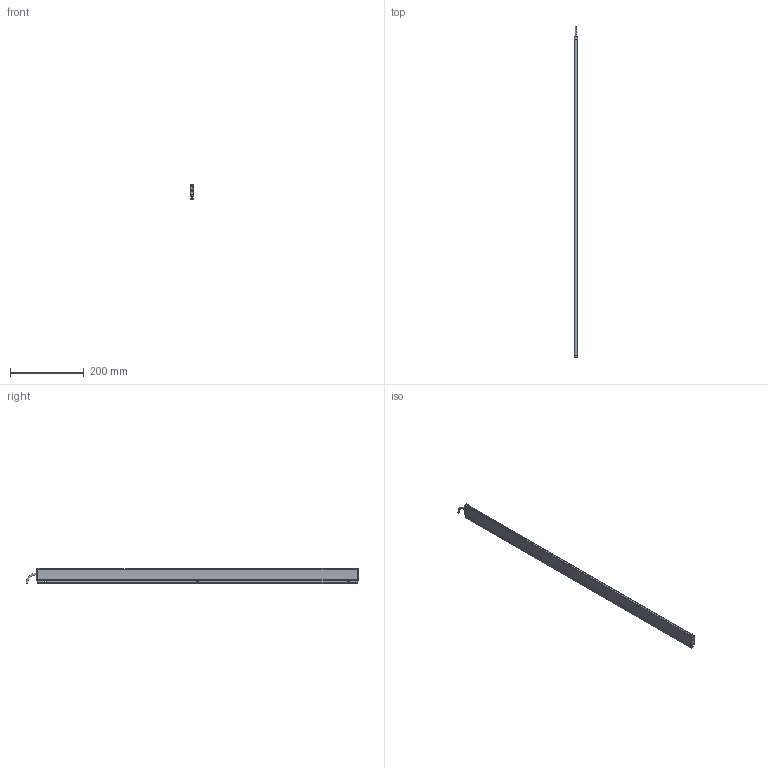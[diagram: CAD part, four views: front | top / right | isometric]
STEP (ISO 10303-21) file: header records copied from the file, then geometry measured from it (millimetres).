
FILE_DESCRIPTION (( 'STEP AP214' ), '1' );
FILE_NAME ('ILG-L-K1-0870mm.STEP', '2017-07-11T07:07:19', ( '' ), ( '' ), 'SwSTEP 2.0', 'SolidWorks 2016', '' );
FILE_SCHEMA (( 'AUTOMOTIVE_DESIGN' ));
Length unit declared in the file: millimetre
Products named in the file (1): ILG-L-K1-0870mm
Bounding box: 9 x 898.25 x 40.71 mm (x, y, z)
Volume: 124423.1 mm3; surface area: 172713.8 mm2
Topology: 9 solids, 9 shells, 430 faces, 1108 edges, 698 vertices
Faces by surface type: plane 205, cylinder 151, cone 64, torus 10
Entity records: 17910 total; most frequent: CARTESIAN_POINT 2385, DIRECTION 2328, ORIENTED_EDGE 2200, EDGE_CURVE 1100, AXIS2_PLACEMENT_3D 849, VERTEX_POINT 698, VECTOR 630, LINE 630
